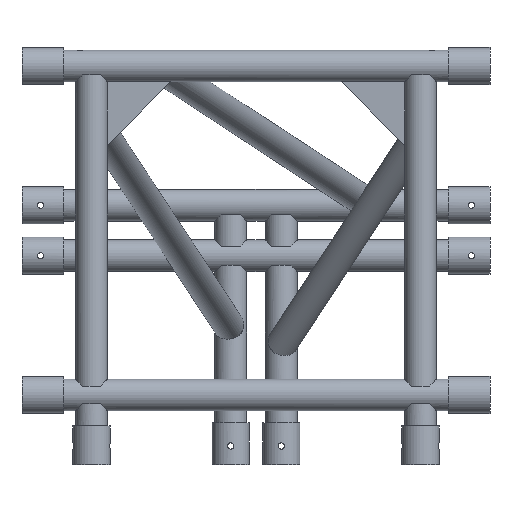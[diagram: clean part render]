
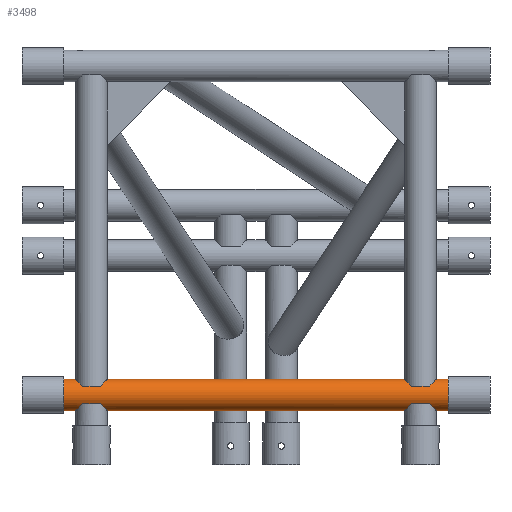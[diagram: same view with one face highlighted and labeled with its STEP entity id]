
A CAD part, front view. The second image highlights one B-rep face of the part: STEP entity #3498.
In plain terms, the highlighted cylindrical face has radius 25 mm (diameter 50 mm), a full revolution.
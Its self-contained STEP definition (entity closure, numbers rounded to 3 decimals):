
#78=FACE_BOUND('',#708,.T.);
#79=FACE_BOUND('',#709,.T.);
#80=FACE_BOUND('',#710,.T.);
#81=FACE_BOUND('',#711,.T.);
#82=FACE_BOUND('',#712,.T.);
#304=CYLINDRICAL_SURFACE('',#3842,25.);
#454=FACE_OUTER_BOUND('',#707,.T.);
#707=EDGE_LOOP('',(#2624));
#708=EDGE_LOOP('',(#2625,#2626,#2627,#2628));
#709=EDGE_LOOP('',(#2629,#2630,#2631,#2632));
#710=EDGE_LOOP('',(#2633,#2634,#2635,#2636,#2637,#2638,#2639));
#711=EDGE_LOOP('',(#2640,#2641,#2642,#2643,#2644,#2645,#2646));
#712=EDGE_LOOP('',(#2647));
#880=ELLIPSE('',#3670,35.355,25.);
#881=ELLIPSE('',#3671,35.355,25.);
#882=ELLIPSE('',#3684,35.355,25.);
#883=ELLIPSE('',#3685,35.355,25.);
#900=ELLIPSE('',#3764,35.355,25.);
#901=ELLIPSE('',#3766,35.355,25.);
#902=ELLIPSE('',#3767,35.355,25.);
#906=ELLIPSE('',#3779,35.355,25.);
#907=ELLIPSE('',#3781,35.355,25.);
#908=ELLIPSE('',#3783,35.355,25.);
#1013=CIRCLE('',#3837,25.);
#1015=CIRCLE('',#3843,25.);
#1086=LINE('',#5670,#1221);
#1087=LINE('',#5675,#1222);
#1088=LINE('',#5771,#1223);
#1089=LINE('',#5776,#1224);
#1127=LINE('',#6468,#1262);
#1128=LINE('',#6470,#1263);
#1133=LINE('',#6499,#1268);
#1134=LINE('',#6501,#1269);
#1150=LINE('',#7061,#1285);
#1151=LINE('',#7063,#1286);
#1221=VECTOR('',#4158,10.);
#1222=VECTOR('',#4163,10.);
#1223=VECTOR('',#4188,10.);
#1224=VECTOR('',#4193,10.);
#1262=VECTOR('',#4417,10.);
#1263=VECTOR('',#4420,10.);
#1268=VECTOR('',#4453,10.);
#1269=VECTOR('',#4456,10.);
#1285=VECTOR('',#4578,10.);
#1286=VECTOR('',#4579,10.);
#1391=VERTEX_POINT('',#5668);
#1392=VERTEX_POINT('',#5669);
#1393=VERTEX_POINT('',#5673);
#1394=VERTEX_POINT('',#5674);
#1402=VERTEX_POINT('',#5769);
#1403=VERTEX_POINT('',#5770);
#1404=VERTEX_POINT('',#5774);
#1405=VERTEX_POINT('',#5775);
#1469=VERTEX_POINT('',#6448);
#1470=VERTEX_POINT('',#6449);
#1471=VERTEX_POINT('',#6451);
#1472=VERTEX_POINT('',#6453);
#1474=VERTEX_POINT('',#6457);
#1479=VERTEX_POINT('',#6479);
#1480=VERTEX_POINT('',#6480);
#1481=VERTEX_POINT('',#6482);
#1482=VERTEX_POINT('',#6484);
#1483=VERTEX_POINT('',#6486);
#1527=VERTEX_POINT('',#6974);
#1533=VERTEX_POINT('',#7060);
#1534=VERTEX_POINT('',#7062);
#1535=VERTEX_POINT('',#7064);
#1748=EDGE_CURVE('',#1391,#1392,#1086,.T.);
#1750=EDGE_CURVE('',#1393,#1394,#1087,.T.);
#1753=EDGE_CURVE('',#1392,#1393,#880,.T.);
#1754=EDGE_CURVE('',#1394,#1391,#881,.T.);
#1761=EDGE_CURVE('',#1402,#1403,#1088,.T.);
#1763=EDGE_CURVE('',#1404,#1405,#1089,.T.);
#1766=EDGE_CURVE('',#1403,#1404,#882,.T.);
#1767=EDGE_CURVE('',#1405,#1402,#883,.T.);
#1860=EDGE_CURVE('',#1469,#1470,#900,.T.);
#1862=EDGE_CURVE('',#1472,#1471,#901,.T.);
#1864=EDGE_CURVE('',#1474,#1472,#902,.T.);
#1871=EDGE_CURVE('',#1470,#1474,#1127,.T.);
#1872=EDGE_CURVE('',#1471,#1469,#1128,.T.);
#1876=EDGE_CURVE('',#1479,#1480,#906,.T.);
#1878=EDGE_CURVE('',#1482,#1481,#907,.T.);
#1880=EDGE_CURVE('',#1480,#1483,#908,.T.);
#1887=EDGE_CURVE('',#1483,#1482,#1133,.T.);
#1888=EDGE_CURVE('',#1481,#1479,#1134,.T.);
#1944=EDGE_CURVE('',#1527,#1527,#1013,.T.);
#1950=EDGE_CURVE('',#1472,#1533,#1150,.T.);
#1951=EDGE_CURVE('',#1534,#1480,#1151,.T.);
#1952=EDGE_CURVE('',#1535,#1535,#1015,.T.);
#2624=ORIENTED_EDGE('',*,*,#1944,.F.);
#2625=ORIENTED_EDGE('',*,*,#1750,.T.);
#2626=ORIENTED_EDGE('',*,*,#1754,.T.);
#2627=ORIENTED_EDGE('',*,*,#1748,.T.);
#2628=ORIENTED_EDGE('',*,*,#1753,.T.);
#2629=ORIENTED_EDGE('',*,*,#1763,.T.);
#2630=ORIENTED_EDGE('',*,*,#1767,.T.);
#2631=ORIENTED_EDGE('',*,*,#1761,.T.);
#2632=ORIENTED_EDGE('',*,*,#1766,.T.);
#2633=ORIENTED_EDGE('',*,*,#1860,.T.);
#2634=ORIENTED_EDGE('',*,*,#1871,.T.);
#2635=ORIENTED_EDGE('',*,*,#1864,.T.);
#2636=ORIENTED_EDGE('',*,*,#1950,.T.);
#2637=ORIENTED_EDGE('',*,*,#1950,.F.);
#2638=ORIENTED_EDGE('',*,*,#1862,.T.);
#2639=ORIENTED_EDGE('',*,*,#1872,.T.);
#2640=ORIENTED_EDGE('',*,*,#1876,.T.);
#2641=ORIENTED_EDGE('',*,*,#1951,.F.);
#2642=ORIENTED_EDGE('',*,*,#1951,.T.);
#2643=ORIENTED_EDGE('',*,*,#1880,.T.);
#2644=ORIENTED_EDGE('',*,*,#1887,.T.);
#2645=ORIENTED_EDGE('',*,*,#1878,.T.);
#2646=ORIENTED_EDGE('',*,*,#1888,.T.);
#2647=ORIENTED_EDGE('',*,*,#1952,.F.);
#3498=ADVANCED_FACE('',(#454,#78,#79,#80,#81,#82),#304,.T.);
#3670=AXIS2_PLACEMENT_3D('',#5680,#4170,#4171);
#3671=AXIS2_PLACEMENT_3D('',#5681,#4172,#4173);
#3684=AXIS2_PLACEMENT_3D('',#5781,#4200,#4201);
#3685=AXIS2_PLACEMENT_3D('',#5782,#4202,#4203);
#3764=AXIS2_PLACEMENT_3D('',#6450,#4395,#4396);
#3766=AXIS2_PLACEMENT_3D('',#6454,#4399,#4400);
#3767=AXIS2_PLACEMENT_3D('',#6458,#4402,#4403);
#3779=AXIS2_PLACEMENT_3D('',#6481,#4431,#4432);
#3781=AXIS2_PLACEMENT_3D('',#6485,#4435,#4436);
#3783=AXIS2_PLACEMENT_3D('',#6488,#4439,#4440);
#3837=AXIS2_PLACEMENT_3D('',#6975,#4566,#4567);
#3842=AXIS2_PLACEMENT_3D('',#7059,#4576,#4577);
#3843=AXIS2_PLACEMENT_3D('',#7065,#4580,#4581);
#4158=DIRECTION('',(1.,0.,0.));
#4163=DIRECTION('',(-1.,0.,0.));
#4170=DIRECTION('center_axis',(0.707,0.,0.707));
#4171=DIRECTION('ref_axis',(-0.707,0.,0.707));
#4172=DIRECTION('center_axis',(-0.707,0.,0.707));
#4173=DIRECTION('ref_axis',(-0.707,0.,-0.707));
#4188=DIRECTION('',(-1.,0.,0.));
#4193=DIRECTION('',(1.,0.,0.));
#4200=DIRECTION('center_axis',(-0.707,0.,0.707));
#4201=DIRECTION('ref_axis',(0.707,0.,0.707));
#4202=DIRECTION('center_axis',(0.707,0.,0.707));
#4203=DIRECTION('ref_axis',(0.707,0.,-0.707));
#4395=DIRECTION('center_axis',(-0.707,0.,-0.707));
#4396=DIRECTION('ref_axis',(-0.707,0.,0.707));
#4399=DIRECTION('center_axis',(0.707,0.,-0.707));
#4400=DIRECTION('ref_axis',(-0.707,0.,-0.707));
#4402=DIRECTION('center_axis',(0.707,0.,-0.707));
#4403=DIRECTION('ref_axis',(-0.707,0.,-0.707));
#4417=DIRECTION('',(1.,0.,0.));
#4420=DIRECTION('',(-1.,0.,0.));
#4431=DIRECTION('center_axis',(-0.707,0.,
-0.707));
#4432=DIRECTION('ref_axis',(-0.707,0.,0.707));
#4435=DIRECTION('center_axis',(0.707,0.,-0.707));
#4436=DIRECTION('ref_axis',(-0.707,0.,-0.707));
#4439=DIRECTION('center_axis',(-0.707,0.,
-0.707));
#4440=DIRECTION('ref_axis',(-0.707,0.,0.707));
#4453=DIRECTION('',(1.,0.,0.));
#4456=DIRECTION('',(-1.,0.,0.));
#4566=DIRECTION('center_axis',(-1.,0.,0.));
#4567=DIRECTION('ref_axis',(0.,0.,-1.));
#4576=DIRECTION('center_axis',(1.,0.,0.));
#4577=DIRECTION('ref_axis',(0.,0.,
-1.));
#4578=DIRECTION('',(1.,0.,0.));
#4579=DIRECTION('',(1.,0.,0.));
#4580=DIRECTION('center_axis',(1.,0.,0.));
#4581=DIRECTION('ref_axis',(0.,0.,
-1.));
#5668=CARTESIAN_POINT('',(96.,-20.712,-274.));
#5669=CARTESIAN_POINT('',(124.,-20.712,-274.));
#5670=CARTESIAN_POINT('',(671.85,-20.712,-274.));
#5673=CARTESIAN_POINT('',(124.,20.712,-274.));
#5674=CARTESIAN_POINT('',(96.,20.712,-274.));
#5675=CARTESIAN_POINT('',(671.85,20.712,-274.));
#5680=CARTESIAN_POINT('Origin',(110.,0.,-260.));
#5681=CARTESIAN_POINT('Origin',(110.,0.,-260.));
#5769=CARTESIAN_POINT('',(644.,20.712,-274.));
#5770=CARTESIAN_POINT('',(616.,20.712,-274.));
#5771=CARTESIAN_POINT('',(671.85,20.712,-274.));
#5774=CARTESIAN_POINT('',(616.,-20.712,-274.));
#5775=CARTESIAN_POINT('',(644.,-20.712,-274.));
#5776=CARTESIAN_POINT('',(671.85,-20.712,-274.));
#5781=CARTESIAN_POINT('Origin',(630.,0.,-260.));
#5782=CARTESIAN_POINT('Origin',(630.,0.,-260.));
#6448=CARTESIAN_POINT('',(96.,-20.712,-246.));
#6449=CARTESIAN_POINT('',(96.,20.712,-246.));
#6450=CARTESIAN_POINT('Origin',(110.,0.,-260.));
#6451=CARTESIAN_POINT('',(124.,-20.712,-246.));
#6453=CARTESIAN_POINT('',(135.,0.,-235.));
#6454=CARTESIAN_POINT('Origin',(110.,0.,-260.));
#6457=CARTESIAN_POINT('',(124.,20.712,-246.));
#6458=CARTESIAN_POINT('Origin',(110.,0.,-260.));
#6468=CARTESIAN_POINT('',(671.85,20.712,-246.));
#6470=CARTESIAN_POINT('',(671.85,-20.712,-246.));
#6479=CARTESIAN_POINT('',(616.,-20.712,-246.));
#6480=CARTESIAN_POINT('',(605.,0.,-235.));
#6481=CARTESIAN_POINT('Origin',(630.,0.,-260.));
#6482=CARTESIAN_POINT('',(644.,-20.712,-246.));
#6484=CARTESIAN_POINT('',(644.,20.712,-246.));
#6485=CARTESIAN_POINT('Origin',(630.,0.,-260.));
#6486=CARTESIAN_POINT('',(616.,20.712,-246.));
#6488=CARTESIAN_POINT('Origin',(630.,0.,-260.));
#6499=CARTESIAN_POINT('',(671.85,20.712,-246.));
#6501=CARTESIAN_POINT('',(671.85,-20.712,-246.));
#6974=CARTESIAN_POINT('',(66.3,0.,-285.));
#6975=CARTESIAN_POINT('Origin',(66.3,0.,-260.));
#7059=CARTESIAN_POINT('Origin',(671.85,0.,-260.));
#7060=CARTESIAN_POINT('',(235.,0.,-235.));
#7061=CARTESIAN_POINT('',(671.85,0.,-235.));
#7062=CARTESIAN_POINT('',(505.,0.,-235.));
#7063=CARTESIAN_POINT('',(671.85,0.,-235.));
#7064=CARTESIAN_POINT('',(673.7,0.,-285.));
#7065=CARTESIAN_POINT('Origin',(673.7,0.,-260.));
